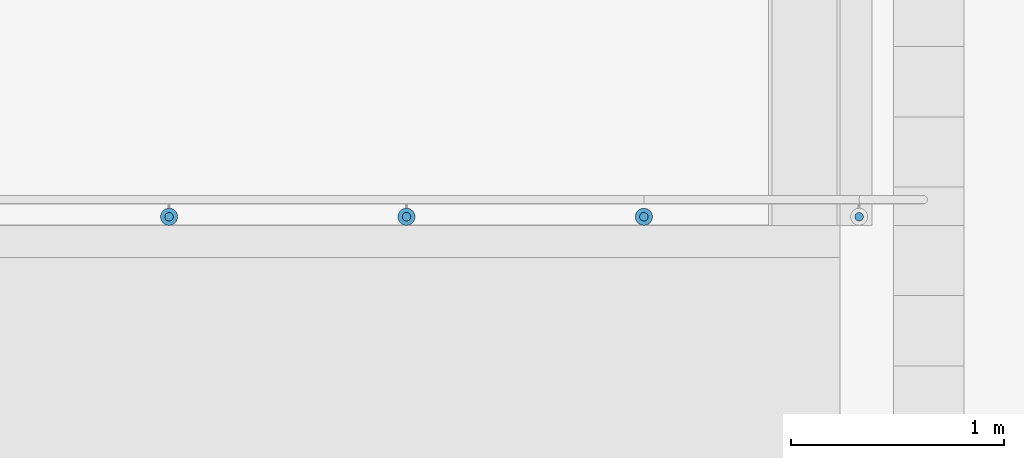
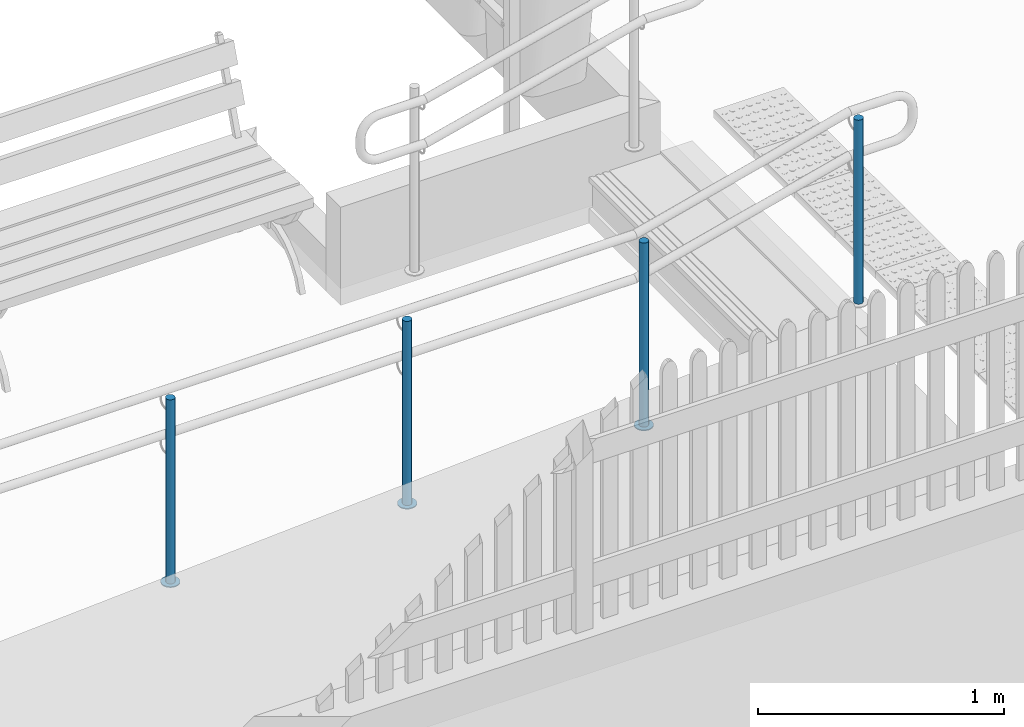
# One storey, part 89 of 237: 7 building element parts, 1 element without a shape of its own.
"""IFC2X3 building model written with IfcOpenShell, lengths in millimetres."""

import ifcopenshell
import ifcopenshell.guid

model = None  # the IFC model being written
_history = None  # IfcOwnerHistory: only IFC2X3 demands one
_inside = {}  # id of a spatial element -> (the spatial element, [elements in it])
_under = {}  # id of a project, library or spatial element -> (it, [spatial elements below it])
_declared = {}  # id of a project -> (the project, [libraries it declares])
_typed = {}  # id of a type object -> (the type object, [elements of that type])
_made_of = {}  # id of a material, layer set ... -> (it, [elements and type objects made of it])


def new_model(schema):
    """Start an empty IFC model of exactly this schema.

    Asked for "IFC4X3", IfcOpenShell would pick the latest addendum, in which some entities
    have other attributes; the version numbers below select the first issue.
    IFC2X3 requires an IfcOwnerHistory on every rooted entity: one is made here for all.
    """
    global model, _history
    if schema == "IFC4X3":
        model = ifcopenshell.file(schema_version=(4, 3, 0, 0))
    else:
        model = ifcopenshell.file(schema=schema)
    _inside.clear()
    _under.clear()
    _declared.clear()
    _typed.clear()
    _made_of.clear()
    _history = None
    if model.schema == "IFC2X3":
        org = make("IfcOrganization", Name="unknown")
        user = make(
            "IfcPersonAndOrganization",
            ThePerson=make("IfcPerson", FamilyName="unknown"),
            TheOrganization=org,
        )
        app = make(
            "IfcApplication",
            ApplicationDeveloper=org,
            Version="unknown",
            ApplicationFullName="unknown",
            ApplicationIdentifier="unknown",
        )
        _history = make(
            "IfcOwnerHistory",
            OwningUser=user,
            OwningApplication=app,
            ChangeAction="ADDED",
            CreationDate=0,
        )
    return model


def make(cls, **values):
    """One entity of the class cls with the attributes given. An attribute that is None is left unset."""
    return model.create_entity(
        cls, **{name: value for name, value in values.items() if value is not None}
    )


def entity(cls, *values):
    """Any entity or typed value of the class cls, its attributes in the order of the schema. None: left unset."""
    e = model.create_entity(cls)
    for i, value in enumerate(values):
        if value is not None:
            e[i] = value
    return e


def rooted(cls, **values):
    """An entity with a GlobalId (a new one), such as an element, a storey or a relation."""
    return make(cls, GlobalId=ifcopenshell.guid.new(), OwnerHistory=_history, **values)


def si_unit(unit_type, name, prefix=None):
    """IfcSIUnit, for example si_unit("LENGTHUNIT", "METRE", prefix="MILLI")."""
    return make("IfcSIUnit", UnitType=unit_type, Prefix=prefix, Name=name)


def converted_unit(unit_type, name, factor, base, dimensions=None, offset=None):
    """IfcConversionBasedUnit, such as the inch: factor (a typed value) times the base unit."""
    return make(
        "IfcConversionBasedUnit"
        if offset is None
        else "IfcConversionBasedUnitWithOffset",
        ConversionOffset=offset,
        Dimensions=None
        if dimensions is None
        else entity("IfcDimensionalExponents", *dimensions),
        UnitType=unit_type,
        Name=name,
        ConversionFactor=make(
            "IfcMeasureWithUnit", ValueComponent=factor, UnitComponent=base
        ),
    )


def derived_unit(unit_type, elements):
    """IfcDerivedUnit: a product of units, each with its exponent."""
    return make(
        "IfcDerivedUnit",
        Elements=[
            make("IfcDerivedUnitElement", Unit=unit, Exponent=power)
            for unit, power in elements
        ],
        UnitType=unit_type,
    )


def money_unit(currency):
    """IfcMonetaryUnit."""
    return make("IfcMonetaryUnit", Currency=currency)


def assignment(units):
    """IfcUnitAssignment: the units of a project."""
    return None if units is None else make("IfcUnitAssignment", Units=units)


def point(xyz):
    """IfcCartesianPoint."""
    return None if xyz is None else make("IfcCartesianPoint", Coordinates=xyz)


def direction(xyz):
    """IfcDirection."""
    return None if xyz is None else make("IfcDirection", DirectionRatios=xyz)


def frame(location, z_axis=None, x_axis=None):
    """IfcAxis2Placement3D, a coordinate frame: its origin and axes. An axis left out is left unset."""
    return make(
        "IfcAxis2Placement3D",
        Location=point(location),
        Axis=direction(z_axis),
        RefDirection=direction(x_axis),
    )


def origin_with_axes():
    """The frame at (0, 0, 0) with the z axis (0, 0, 1) and the x axis (1, 0, 0) written out."""
    return frame((0.0, 0.0, 0.0), z_axis=(0.0, 0.0, 1.0), x_axis=(1.0, 0.0, 0.0))


def place(relative_to, where):
    """IfcLocalPlacement: puts the frame where relative to a parent placement (None: the world)."""
    return make(
        "IfcLocalPlacement", PlacementRelTo=relative_to, RelativePlacement=where
    )


def context(
    kind, dimensions, precision=None, world=None, true_north=None, identifier=None
):
    """IfcGeometricRepresentationContext, for example the 3D "Model" context."""
    return make(
        "IfcGeometricRepresentationContext",
        ContextIdentifier=identifier,
        ContextType=kind,
        CoordinateSpaceDimension=dimensions,
        Precision=precision,
        WorldCoordinateSystem=world,
        TrueNorth=true_north,
    )


def subcontext(parent, identifier, kind, view, scale=None):
    """IfcGeometricRepresentationSubContext, for example "Body" below "Model"."""
    return make(
        "IfcGeometricRepresentationSubContext",
        ContextIdentifier=identifier,
        ContextType=kind,
        ParentContext=parent,
        TargetScale=scale,
        TargetView=view,
    )


def project(units=None, contexts=None):
    """IfcProject with its units and contexts."""
    return rooted(
        "IfcProject",
        Name="project",
        RepresentationContexts=contexts,
        UnitsInContext=assignment(units),
    )


def spatial(cls, under=None, at=None, **own):
    """A site, building, storey or space (cls), placed at a placement, below another one or the project."""
    s = rooted(cls, ObjectPlacement=at, **own)
    if under is not None:
        _under.setdefault(under.id(), (under, []))[1].append(s)
    return s


def faces_of(points, faces, orient=None, outer=None):
    """IfcFace entities. A face is a list of loops; a loop is a list of indices into points, from 0.

    orient and outer hold one flag for each loop. By default every Orientation is true, the
    first loop of a face is its IfcFaceOuterBound and the others are IfcFaceBound.
    """
    made = []
    for i, loops in enumerate(faces):
        bounds = []
        for j, loop in enumerate(loops):
            is_outer = j == 0 if outer is None else outer[i][j]
            bounds.append(
                make(
                    "IfcFaceOuterBound" if is_outer else "IfcFaceBound",
                    Bound=make("IfcPolyLoop", Polygon=[points[k] for k in loop]),
                    Orientation=True if orient is None else orient[i][j],
                )
            )
        made.append(make("IfcFace", Bounds=bounds))
    return made


def faceted_brep(points, faces, orient=None, outer=None, voids=None):
    """IfcFacetedBrep: a solid bounded by flat faces; with voids (closed shells), ...WithVoids."""
    shared = [point(p) for p in points]
    hull = make("IfcClosedShell", CfsFaces=faces_of(shared, faces, orient, outer))
    if voids is None:
        return make("IfcFacetedBrep", Outer=hull)
    return make(
        "IfcFacetedBrepWithVoids",
        Outer=hull,
        Voids=[
            make(cls, CfsFaces=faces_of(shared, fs, o, b)) for cls, fs, o, b in voids
        ],
    )


def shape(context_of_items, identifier, shape_type, items):
    """IfcShapeRepresentation: the items that make up one representation, for example the "Body"."""
    return make(
        "IfcShapeRepresentation",
        ContextOfItems=context_of_items,
        RepresentationIdentifier=identifier,
        RepresentationType=shape_type,
        Items=items,
    )


def material(Name=None, Category=None):
    """IfcMaterial."""
    return make("IfcMaterial", Name=Name, Category=Category)


def made_of(thing, what):
    """Note that an element or type object is made of a material, layer set ...; save() writes the relation."""
    if what is not None:
        _made_of.setdefault(what.id(), (what, []))[1].append(thing)
    return thing


def type_object(cls, material=None, **own):
    """A type object (cls), such as IfcWallType, which elements share."""
    return made_of(rooted(cls, **own), material)


def element(
    cls,
    number,
    at=None,
    inside=None,
    cuts=None,
    type_object=None,
    material=None,
    context=None,
    identifier="Body",
    shape_type=None,
    held_by="IfcProductDefinitionShape",
    body=None,
    shapes=None,
    **own,
):
    """One element of the class cls, such as IfcWall. Its Tag is "e" and its number.

    at: its placement. inside: the storey or other place that contains it. cuts: it is an
    opening in that element (IfcRelVoidsElement). A single representation is given by context,
    identifier, shape_type and body (its items); several are given by shapes. held_by: the class
    of the entity that holds the representations. save() writes the other relations.
    """
    e = rooted(cls, Tag="e%d" % number, ObjectPlacement=at, **own)
    if body is not None:
        shapes = [shape(context, identifier, shape_type, body)]
    if shapes is not None:
        e.Representation = make(held_by, Representations=shapes)
    if inside is not None:
        _inside.setdefault(inside.id(), (inside, []))[1].append(e)
    if cuts is not None:
        rooted(
            "IfcRelVoidsElement", RelatingBuildingElement=cuts, RelatedOpeningElement=e
        )
    if type_object is not None:
        _typed.setdefault(type_object.id(), (type_object, []))[1].append(e)
    return made_of(e, material)


def aggregate(whole, parts):
    """IfcRelAggregates: a whole, such as a stair, and the parts it consists of."""
    return rooted("IfcRelAggregates", RelatingObject=whole, RelatedObjects=parts)


def save(model, path):
    """Write the relations noted so far, then the file.

    IfcRelAggregates (storeys below a building ...), IfcRelContainedInSpatialStructure (elements
    in a storey), IfcRelDefinesByType, IfcRelAssociatesMaterial and IfcRelDeclares: one each for
    every whole, place, type object, material and project.
    """
    for whole, parts in _under.values():
        aggregate(whole, parts)
    for where, things in _inside.values():
        rooted(
            "IfcRelContainedInSpatialStructure",
            RelatedElements=things,
            RelatingStructure=where,
        )
    for kind, things in _typed.values():
        rooted("IfcRelDefinesByType", RelatedObjects=things, RelatingType=kind)
    for what, things in _made_of.values():
        rooted("IfcRelAssociatesMaterial", RelatedObjects=things, RelatingMaterial=what)
    for by, libraries in _declared.values():
        rooted("IfcRelDeclares", RelatingContext=by, RelatedDefinitions=libraries)
    model.write(path)


model = new_model("IFC2X3")

# Units and contexts
model_context = context("Model", 3, precision=0.01, world=origin_with_axes(), true_north=direction((0.0, 1.0)))
body_context = subcontext(model_context, "Body", "Model", "MODEL_VIEW")
ifc_project = project(units=[si_unit("LENGTHUNIT", "METRE", prefix="MILLI"), si_unit("AREAUNIT", "SQUARE_METRE"), si_unit("VOLUMEUNIT", "CUBIC_METRE"), converted_unit("PLANEANGLEUNIT", "DEGREE", entity("IfcPlaneAngleMeasure", 0.0174532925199), si_unit("PLANEANGLEUNIT", "RADIAN"), dimensions=[0, 0, 0, 0, 0, 0, 0]), money_unit("USD"), converted_unit("TIMEUNIT", "Year", entity("IfcTimeMeasure", 31556926.0), si_unit("TIMEUNIT", "SECOND"), dimensions=[0, 0, 1, 0, 0, 0, 0]), si_unit("MASSUNIT", "GRAM", prefix="KILO"), si_unit("THERMODYNAMICTEMPERATUREUNIT", "DEGREE_CELSIUS"), si_unit("LUMINOUSINTENSITYUNIT", "LUMEN"), si_unit("ENERGYUNIT", "JOULE", prefix="MEGA"), derived_unit("THERMALCONDUCTANCEUNIT", [(si_unit("POWERUNIT", "WATT"), 1), (si_unit("LENGTHUNIT", "METRE"), -1), (si_unit("THERMODYNAMICTEMPERATUREUNIT", "KELVIN"), -1)]), derived_unit("SPECIFICHEATCAPACITYUNIT", [(si_unit("ENERGYUNIT", "JOULE"), 1), (si_unit("MASSUNIT", "GRAM", prefix="KILO"), -1), (si_unit("THERMODYNAMICTEMPERATUREUNIT", "KELVIN"), -1)]), derived_unit("MASSDENSITYUNIT", [(si_unit("MASSUNIT", "GRAM", prefix="KILO"), 1), (si_unit("VOLUMEUNIT", "CUBIC_METRE"), -1)])], contexts=[model_context])

# Site, building, storey
site_placement = place(None, origin_with_axes())
site = spatial("IfcSite", under=ifc_project, at=site_placement, Name="Local", CompositionType="ELEMENT")
building_placement = place(site_placement, origin_with_axes())
building = spatial("IfcBuilding", under=site, at=building_placement, Name="Construção", CompositionType="ELEMENT")
storey_placement = place(building_placement, origin_with_axes())
storey = spatial("IfcBuildingStorey", under=building, at=storey_placement, Name="Pavimento Térreo", CompositionType="ELEMENT", Elevation=0.0)

# Railing, building element parts
railing_type = type_object("IfcRailingType", Name="Tipo de Guarda-Corpo", PredefinedType="NOTDEFINED")
railing_placement = place(storey_placement, frame((44000.0, 26000.0, -1614.15280207), z_axis=(0.0, 0.0, 1.0), x_axis=(1.0, 0.0, 0.0)))
railing = element("IfcRailing", 1, at=railing_placement, inside=storey, type_object=railing_type, Name="Guarda-Corpo - 001", PredefinedType="NOTDEFINED")
ifc_material_1 = material(Name="Aço - Inoxidável")
building_element_part_1_placement = place(railing_placement, origin_with_axes())
building_element_part_1 = element("IfcBuildingElementPart", 2, at=building_element_part_1_placement, material=ifc_material_1, Name="Aço - Inoxidável", context=body_context, shape_type="Brep", body=[
    faceted_brep([(4138.64157588, -823.624759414, 5.0), (4142.11453943, -823.928604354, 5.0), (4142.11453943, -823.928604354, 920.0), (4138.64157588, -823.624759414, 920.0), (4145.58750298, -823.624759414, 5.0), (4135.27413656, -822.722456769, 5.0), (4132.11453943, -821.249112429, 5.0), (4129.25878724, -819.249493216, 5.0), (4126.79365057, -816.784356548, 5.0), (4124.79403135, -813.928604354, 5.0), (4123.32068701, -810.76900722, 5.0), (4122.41838437, -807.401567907, 5.0), (4122.11453943, -803.928604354, 5.0), (4122.41838437, -800.4556408, 5.0), (4123.32068701, -797.088201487, 5.0), (4124.79403135, -793.928604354, 5.0), (4126.79365057, -791.07285216, 5.0), (4129.25878724, -788.607715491, 5.0), (4132.11453943, -786.608096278, 5.0), (4135.27413656, -785.134751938, 5.0), (4138.64157588, -784.232449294, 5.0), (4142.11453943, -783.928604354, 5.0), (4145.58750298, -784.232449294, 5.0), (4148.9549423, -785.134751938, 5.0), (4152.11453943, -786.608096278, 5.0), (4154.97029162, -788.607715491, 5.0), (4157.43542829, -791.07285216, 5.0), (4159.43504751, -793.928604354, 5.0), (4160.90839185, -797.088201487, 5.0), (4161.81069449, -800.4556408, 5.0), (4162.11453943, -803.928604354, 5.0), (4161.81069449, -807.401567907, 5.0), (4160.90839185, -810.76900722, 5.0), (4159.43504751, -813.928604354, 5.0), (4157.43542829, -816.784356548, 5.0), (4154.97029162, -819.249493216, 5.0), (4152.11453943, -821.249112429, 5.0), (4148.9549423, -822.722456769, 5.0), (4145.58750298, -823.624759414, 920.0), (4122.41838437, -800.4556408, 920.0), (4122.11453943, -803.928604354, 920.0), (4122.41838437, -807.401567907, 920.0), (4123.32068701, -810.76900722, 920.0), (4124.79403135, -813.928604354, 920.0), (4126.79365057, -816.784356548, 920.0), (4129.25878724, -819.249493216, 920.0), (4132.11453943, -821.249112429, 920.0), (4135.27413656, -822.722456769, 920.0), (4148.9549423, -822.722456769, 920.0), (4152.11453943, -821.249112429, 920.0), (4154.97029162, -819.249493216, 920.0), (4157.43542829, -816.784356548, 920.0), (4159.43504751, -813.928604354, 920.0), (4160.90839185, -810.76900722, 920.0), (4161.81069449, -807.401567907, 920.0), (4162.11453943, -803.928604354, 920.0), (4161.81069449, -800.4556408, 920.0), (4160.90839185, -797.088201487, 920.0), (4159.43504751, -793.928604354, 920.0), (4157.43542829, -791.07285216, 920.0), (4154.97029162, -788.607715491, 920.0), (4152.11453943, -786.608096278, 920.0), (4148.9549423, -785.134751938, 920.0), (4145.58750298, -784.232449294, 920.0), (4142.11453943, -783.928604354, 920.0), (4138.64157588, -784.232449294, 920.0), (4135.27413656, -785.134751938, 920.0), (4132.11453943, -786.608096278, 920.0), (4129.25878724, -788.607715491, 920.0), (4126.79365057, -791.07285216, 920.0), (4124.79403135, -793.928604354, 920.0), (4123.32068701, -797.088201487, 920.0)], [[[0, 1, 2, 3]], [[4, 1, 0, 5, 6, 7, 8, 9, 10, 11, 12, 13, 14, 15, 16, 17, 18, 19, 20, 21, 22, 23, 24, 25, 26, 27, 28, 29, 30, 31, 32, 33, 34, 35, 36, 37]], [[1, 4, 38, 2]], [[39, 40, 41, 42, 43, 44, 45, 46, 47, 3, 2, 38, 48, 49, 50, 51, 52, 53, 54, 55, 56, 57, 58, 59, 60, 61, 62, 63, 64, 65, 66, 67, 68, 69, 70, 71]], [[5, 0, 3, 47]], [[6, 5, 47, 46]], [[7, 6, 46, 45]], [[8, 7, 45, 44]], [[9, 8, 44, 43]], [[10, 9, 43, 42]], [[11, 10, 42, 41]], [[12, 11, 41, 40]], [[13, 12, 40, 39]], [[14, 13, 39, 71]], [[15, 14, 71, 70]], [[16, 15, 70, 69]], [[17, 16, 69, 68]], [[18, 17, 68, 67]], [[19, 18, 67, 66]], [[20, 19, 66, 65]], [[21, 20, 65, 64]], [[22, 21, 64, 63]], [[23, 22, 63, 62]], [[24, 23, 62, 61]], [[25, 24, 61, 60]], [[26, 25, 60, 59]], [[27, 26, 59, 58]], [[28, 27, 58, 57]], [[29, 28, 57, 56]], [[30, 29, 56, 55]], [[31, 30, 55, 54]], [[32, 31, 54, 53]], [[33, 32, 53, 52]], [[34, 33, 52, 51]], [[35, 34, 51, 50]], [[36, 35, 50, 49]], [[37, 36, 49, 48]], [[4, 37, 48, 38]]]),
])
ifc_material_2 = material(Name="Alumínio")
building_element_part_2_placement = place(railing_placement, origin_with_axes())
building_element_part_2 = element("IfcBuildingElementPart", 3, at=building_element_part_2_placement, material=ifc_material_2, Name="Alumínio", context=body_context, shape_type="Brep", body=[
    faceted_brep([(4182.11453943, -803.928604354, 0.0), (4181.50684955, -796.982677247, 0.0), (4181.50684955, -796.982677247, 5.0), (4182.11453943, -803.928604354, 5.0), (4181.50684955, -810.87453146, 0.0), (4179.70224426, -817.609410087, 0.0), (4176.75555558, -823.928604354, 0.0), (4172.75631715, -829.640108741, 0.0), (4167.82604382, -834.570382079, 0.0), (4162.11453943, -838.569620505, 0.0), (4155.79534516, -841.516309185, 0.0), (4149.06046654, -843.320914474, 0.0), (4142.11453943, -843.928604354, 0.0), (4135.16861232, -843.320914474, 0.0), (4128.4337337, -841.516309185, 0.0), (4122.11453943, -838.569620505, 0.0), (4116.40303504, -834.570382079, 0.0), (4111.47276171, -829.640108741, 0.0), (4107.47352328, -823.928604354, 0.0), (4104.5268346, -817.609410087, 0.0), (4102.72222931, -810.87453146, 0.0), (4102.11453943, -803.928604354, 0.0), (4102.72222931, -796.982677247, 0.0), (4104.5268346, -790.247798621, 0.0), (4107.47352328, -783.928604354, 0.0), (4111.47276171, -778.217099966, 0.0), (4116.40303504, -773.286826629, 0.0), (4122.11453943, -769.287588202, 0.0), (4128.4337337, -766.340899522, 0.0), (4135.16861232, -764.536294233, 0.0), (4142.11453943, -763.928604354, 0.0), (4149.06046654, -764.536294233, 0.0), (4155.79534516, -766.340899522, 0.0), (4162.11453943, -769.287588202, 0.0), (4167.82604382, -773.286826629, 0.0), (4172.75631715, -778.217099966, 0.0), (4176.75555558, -783.928604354, 0.0), (4179.70224426, -790.247798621, 0.0), (4179.70224426, -790.247798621, 5.0), (4176.75555558, -783.928604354, 5.0), (4172.75631715, -778.217099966, 5.0), (4167.82604382, -773.286826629, 5.0), (4162.11453943, -769.287588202, 5.0), (4155.79534516, -766.340899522, 5.0), (4149.06046654, -764.536294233, 5.0), (4142.11453943, -763.928604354, 5.0), (4135.16861232, -764.536294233, 5.0), (4128.4337337, -766.340899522, 5.0), (4122.11453943, -769.287588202, 5.0), (4116.40303504, -773.286826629, 5.0), (4111.47276171, -778.217099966, 5.0), (4107.47352328, -783.928604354, 5.0), (4104.5268346, -790.247798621, 5.0), (4102.72222931, -796.982677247, 5.0), (4102.11453943, -803.928604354, 5.0), (4102.72222931, -810.87453146, 5.0), (4104.5268346, -817.609410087, 5.0), (4107.47352328, -823.928604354, 5.0), (4111.47276171, -829.640108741, 5.0), (4116.40303504, -834.570382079, 5.0), (4122.11453943, -838.569620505, 5.0), (4128.4337337, -841.516309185, 5.0), (4135.16861232, -843.320914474, 5.0), (4142.11453943, -843.928604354, 5.0), (4149.06046654, -843.320914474, 5.0), (4155.79534516, -841.516309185, 5.0), (4162.11453943, -838.569620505, 5.0), (4167.82604382, -834.570382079, 5.0), (4172.75631715, -829.640108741, 5.0), (4176.75555558, -823.928604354, 5.0), (4179.70224426, -817.609410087, 5.0), (4181.50684955, -810.87453146, 5.0)], [[[0, 1, 2, 3]], [[0, 4, 5, 6, 7, 8, 9, 10, 11, 12, 13, 14, 15, 16, 17, 18, 19, 20, 21, 22, 23, 24, 25, 26, 27, 28, 29, 30, 31, 32, 33, 34, 35, 36, 37, 1]], [[1, 37, 38, 2]], [[3, 2, 38, 39, 40, 41, 42, 43, 44, 45, 46, 47, 48, 49, 50, 51, 52, 53, 54, 55, 56, 57, 58, 59, 60, 61, 62, 63, 64, 65, 66, 67, 68, 69, 70, 71]], [[4, 0, 3, 71]], [[5, 4, 71, 70]], [[6, 5, 70, 69]], [[7, 6, 69, 68]], [[8, 7, 68, 67]], [[9, 8, 67, 66]], [[10, 9, 66, 65]], [[11, 10, 65, 64]], [[12, 11, 64, 63]], [[13, 12, 63, 62]], [[14, 13, 62, 61]], [[15, 14, 61, 60]], [[16, 15, 60, 59]], [[17, 16, 59, 58]], [[18, 17, 58, 57]], [[19, 18, 57, 56]], [[20, 19, 56, 55]], [[21, 20, 55, 54]], [[22, 21, 54, 53]], [[23, 22, 53, 52]], [[24, 23, 52, 51]], [[25, 24, 51, 50]], [[26, 25, 50, 49]], [[27, 26, 49, 48]], [[28, 27, 48, 47]], [[29, 28, 47, 46]], [[30, 29, 46, 45]], [[31, 30, 45, 44]], [[32, 31, 44, 43]], [[33, 32, 43, 42]], [[34, 33, 42, 41]], [[35, 34, 41, 40]], [[36, 35, 40, 39]], [[37, 36, 39, 38]]]),
])
building_element_part_3_placement = place(railing_placement, origin_with_axes())
building_element_part_3 = element("IfcBuildingElementPart", 4, at=building_element_part_3_placement, material=ifc_material_1, Name="Aço - Inoxidável", context=body_context, shape_type="Brep", body=[
    faceted_brep([(5148.16223179, -823.412715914, 262.278068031), (5151.6352593, -823.715828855, 262.278068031), (5151.6352593, -823.715828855, 1177.27806803), (5148.16223179, -823.412715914, 1177.27806803), (5155.10815874, -823.411251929, 262.278068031), (5144.79460237, -822.511123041, 262.278068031), (5141.63469477, -821.038444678, 262.278068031), (5138.77852118, -819.039427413, 262.278068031), (5136.312865, -816.574810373, 262.278068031), (5134.31264392, -813.7194797, 262.278068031), (5132.83863367, -810.560193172, 262.278068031), (5131.9356213, -807.192944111, 262.278068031), (5131.63104437, -803.720044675, 262.278068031), (5131.93415731, -800.247017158, 262.278068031), (5132.83575019, -796.879387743, 262.278068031), (5134.30842855, -793.719480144, 262.278068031), (5136.30744581, -790.863306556, 262.278068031), (5138.77206285, -788.397650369, 262.278068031), (5141.62739353, -786.397429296, 262.278068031), (5144.78668005, -784.923419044, 262.278068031), (5148.15392912, -784.020406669, 262.278068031), (5151.62682855, -783.715829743, 262.278068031), (5155.09985607, -784.018942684, 262.278068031), (5158.46748548, -784.920535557, 262.278068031), (5161.62739308, -786.39321392, 262.278068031), (5164.48356667, -788.392231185, 262.278068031), (5166.94922286, -790.856848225, 262.278068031), (5168.94944393, -793.712178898, 262.278068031), (5170.42345418, -796.871465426, 262.278068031), (5171.32646656, -800.238714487, 262.278068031), (5171.63104348, -803.711613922, 262.278068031), (5171.32793054, -807.18464144, 262.278068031), (5170.42633767, -810.552270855, 262.278068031), (5168.95365931, -813.712178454, 262.278068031), (5166.95464204, -816.568352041, 262.278068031), (5164.490025, -819.034008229, 262.278068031), (5161.63469433, -821.034229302, 262.278068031), (5158.4754078, -822.508239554, 262.278068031), (5155.10815874, -823.411251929, 1177.27806803), (5131.93415731, -800.247017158, 1177.27806803), (5131.63104437, -803.720044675, 1177.27806803), (5131.9356213, -807.192944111, 1177.27806803), (5132.83863367, -810.560193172, 1177.27806803), (5134.31264392, -813.7194797, 1177.27806803), (5136.312865, -816.574810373, 1177.27806803), (5138.77852118, -819.039427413, 1177.27806803), (5141.63469477, -821.038444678, 1177.27806803), (5144.79460237, -822.511123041, 1177.27806803), (5158.4754078, -822.508239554, 1177.27806803), (5161.63469433, -821.034229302, 1177.27806803), (5164.490025, -819.034008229, 1177.27806803), (5166.95464204, -816.568352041, 1177.27806803), (5168.95365931, -813.712178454, 1177.27806803), (5170.42633767, -810.552270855, 1177.27806803), (5171.32793054, -807.18464144, 1177.27806803), (5171.63104348, -803.711613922, 1177.27806803), (5171.32646656, -800.238714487, 1177.27806803), (5170.42345418, -796.871465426, 1177.27806803), (5168.94944393, -793.712178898, 1177.27806803), (5166.94922286, -790.856848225, 1177.27806803), (5164.48356667, -788.392231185, 1177.27806803), (5161.62739308, -786.39321392, 1177.27806803), (5158.46748548, -784.920535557, 1177.27806803), (5155.09985607, -784.018942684, 1177.27806803), (5151.62682855, -783.715829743, 1177.27806803), (5148.15392912, -784.020406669, 1177.27806803), (5144.78668005, -784.923419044, 1177.27806803), (5141.62739353, -786.397429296, 1177.27806803), (5138.77206285, -788.397650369, 1177.27806803), (5136.30744581, -790.863306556, 1177.27806803), (5134.30842855, -793.719480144, 1177.27806803), (5132.83575019, -796.879387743, 1177.27806803)], [[[0, 1, 2, 3]], [[4, 1, 0, 5, 6, 7, 8, 9, 10, 11, 12, 13, 14, 15, 16, 17, 18, 19, 20, 21, 22, 23, 24, 25, 26, 27, 28, 29, 30, 31, 32, 33, 34, 35, 36, 37]], [[1, 4, 38, 2]], [[39, 40, 41, 42, 43, 44, 45, 46, 47, 3, 2, 38, 48, 49, 50, 51, 52, 53, 54, 55, 56, 57, 58, 59, 60, 61, 62, 63, 64, 65, 66, 67, 68, 69, 70, 71]], [[5, 0, 3, 47]], [[6, 5, 47, 46]], [[7, 6, 46, 45]], [[8, 7, 45, 44]], [[9, 8, 44, 43]], [[10, 9, 43, 42]], [[11, 10, 42, 41]], [[12, 11, 41, 40]], [[13, 12, 40, 39]], [[14, 13, 39, 71]], [[15, 14, 71, 70]], [[16, 15, 70, 69]], [[17, 16, 69, 68]], [[18, 17, 68, 67]], [[19, 18, 67, 66]], [[20, 19, 66, 65]], [[21, 20, 65, 64]], [[22, 21, 64, 63]], [[23, 22, 63, 62]], [[24, 23, 62, 61]], [[25, 24, 61, 60]], [[26, 25, 60, 59]], [[27, 26, 59, 58]], [[28, 27, 58, 57]], [[29, 28, 57, 56]], [[30, 29, 56, 55]], [[31, 30, 55, 54]], [[32, 31, 54, 53]], [[33, 32, 53, 52]], [[34, 33, 52, 51]], [[35, 34, 51, 50]], [[36, 35, 50, 49]], [[37, 36, 49, 48]], [[4, 37, 48, 38]]]),
])
building_element_part_4_placement = place(railing_placement, origin_with_axes())
building_element_part_4 = element("IfcBuildingElementPart", 5, at=building_element_part_4_placement, material=ifc_material_1, Name="Aço - Inoxidável", context=body_context, shape_type="Brep", body=[
    faceted_brep([(1912.19601646, -823.62475897, 5.0), (1915.66898001, -823.92860391, 5.0), (1915.66898001, -823.92860391, 920.0), (1912.19601646, -823.62475897, 920.0), (1919.14194357, -823.62475897, 5.0), (1908.82857715, -822.722456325, 5.0), (1905.66898001, -821.249111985, 5.0), (1902.81322782, -819.249492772, 5.0), (1900.34809115, -816.784356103, 5.0), (1898.34847194, -813.92860391, 5.0), (1896.8751276, -810.769006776, 5.0), (1895.97282495, -807.401567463, 5.0), (1895.66898001, -803.92860391, 5.0), (1895.97282495, -800.455640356, 5.0), (1896.8751276, -797.088201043, 5.0), (1898.34847194, -793.92860391, 5.0), (1900.34809115, -791.072851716, 5.0), (1902.81322782, -788.607715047, 5.0), (1905.66898001, -786.608095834, 5.0), (1908.82857715, -785.134751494, 5.0), (1912.19601646, -784.232448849, 5.0), (1915.66898001, -783.92860391, 5.0), (1919.14194357, -784.232448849, 5.0), (1922.50938288, -785.134751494, 5.0), (1925.66898001, -786.608095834, 5.0), (1928.52473221, -788.607715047, 5.0), (1930.98986888, -791.072851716, 5.0), (1932.98948809, -793.92860391, 5.0), (1934.46283243, -797.088201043, 5.0), (1935.36513507, -800.455640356, 5.0), (1935.66898001, -803.92860391, 5.0), (1935.36513507, -807.401567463, 5.0), (1934.46283243, -810.769006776, 5.0), (1932.98948809, -813.92860391, 5.0), (1930.98986888, -816.784356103, 5.0), (1928.52473221, -819.249492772, 5.0), (1925.66898001, -821.249111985, 5.0), (1922.50938288, -822.722456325, 5.0), (1919.14194357, -823.62475897, 920.0), (1895.97282495, -800.455640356, 920.0), (1895.66898001, -803.92860391, 920.0), (1895.97282495, -807.401567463, 920.0), (1896.8751276, -810.769006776, 920.0), (1898.34847194, -813.92860391, 920.0), (1900.34809115, -816.784356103, 920.0), (1902.81322782, -819.249492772, 920.0), (1905.66898001, -821.249111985, 920.0), (1908.82857715, -822.722456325, 920.0), (1922.50938288, -822.722456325, 920.0), (1925.66898001, -821.249111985, 920.0), (1928.52473221, -819.249492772, 920.0), (1930.98986888, -816.784356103, 920.0), (1932.98948809, -813.92860391, 920.0), (1934.46283243, -810.769006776, 920.0), (1935.36513507, -807.401567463, 920.0), (1935.66898001, -803.92860391, 920.0), (1935.36513507, -800.455640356, 920.0), (1934.46283243, -797.088201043, 920.0), (1932.98948809, -793.92860391, 920.0), (1930.98986888, -791.072851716, 920.0), (1928.52473221, -788.607715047, 920.0), (1925.66898001, -786.608095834, 920.0), (1922.50938288, -785.134751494, 920.0), (1919.14194357, -784.232448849, 920.0), (1915.66898001, -783.92860391, 920.0), (1912.19601646, -784.232448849, 920.0), (1908.82857715, -785.134751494, 920.0), (1905.66898001, -786.608095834, 920.0), (1902.81322782, -788.607715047, 920.0), (1900.34809115, -791.072851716, 920.0), (1898.34847194, -793.92860391, 920.0), (1896.8751276, -797.088201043, 920.0)], [[[0, 1, 2, 3]], [[4, 1, 0, 5, 6, 7, 8, 9, 10, 11, 12, 13, 14, 15, 16, 17, 18, 19, 20, 21, 22, 23, 24, 25, 26, 27, 28, 29, 30, 31, 32, 33, 34, 35, 36, 37]], [[1, 4, 38, 2]], [[39, 40, 41, 42, 43, 44, 45, 46, 47, 3, 2, 38, 48, 49, 50, 51, 52, 53, 54, 55, 56, 57, 58, 59, 60, 61, 62, 63, 64, 65, 66, 67, 68, 69, 70, 71]], [[5, 0, 3, 47]], [[6, 5, 47, 46]], [[7, 6, 46, 45]], [[8, 7, 45, 44]], [[9, 8, 44, 43]], [[10, 9, 43, 42]], [[11, 10, 42, 41]], [[12, 11, 41, 40]], [[13, 12, 40, 39]], [[14, 13, 39, 71]], [[15, 14, 71, 70]], [[16, 15, 70, 69]], [[17, 16, 69, 68]], [[18, 17, 68, 67]], [[19, 18, 67, 66]], [[20, 19, 66, 65]], [[21, 20, 65, 64]], [[22, 21, 64, 63]], [[23, 22, 63, 62]], [[24, 23, 62, 61]], [[25, 24, 61, 60]], [[26, 25, 60, 59]], [[27, 26, 59, 58]], [[28, 27, 58, 57]], [[29, 28, 57, 56]], [[30, 29, 56, 55]], [[31, 30, 55, 54]], [[32, 31, 54, 53]], [[33, 32, 53, 52]], [[34, 33, 52, 51]], [[35, 34, 51, 50]], [[36, 35, 50, 49]], [[37, 36, 49, 48]], [[4, 37, 48, 38]]]),
])
building_element_part_5_placement = place(railing_placement, origin_with_axes())
building_element_part_5 = element("IfcBuildingElementPart", 6, at=building_element_part_5_placement, material=ifc_material_2, Name="Alumínio", context=body_context, shape_type="Brep", body=[
    faceted_brep([(1955.66898001, -803.92860391, 0.0), (1955.06129013, -796.982676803, 0.0), (1955.06129013, -796.982676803, 5.0), (1955.66898001, -803.92860391, 5.0), (1955.06129013, -810.874531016, 0.0), (1953.25668485, -817.609409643, 0.0), (1950.30999617, -823.92860391, 0.0), (1946.31075774, -829.640108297, 0.0), (1941.3804844, -834.570381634, 0.0), (1935.66898001, -838.569620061, 0.0), (1929.34978575, -841.516308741, 0.0), (1922.61490712, -843.32091403, 0.0), (1915.66898001, -843.92860391, 0.0), (1908.72305291, -843.32091403, 0.0), (1901.98817428, -841.516308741, 0.0), (1895.66898001, -838.569620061, 0.0), (1889.95747563, -834.570381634, 0.0), (1885.02720229, -829.640108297, 0.0), (1881.02796386, -823.92860391, 0.0), (1878.08127518, -817.609409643, 0.0), (1876.27666989, -810.874531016, 0.0), (1875.66898001, -803.92860391, 0.0), (1876.27666989, -796.982676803, 0.0), (1878.08127518, -790.247798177, 0.0), (1881.02796386, -783.92860391, 0.0), (1885.02720229, -778.217099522, 0.0), (1889.95747563, -773.286826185, 0.0), (1895.66898001, -769.287587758, 0.0), (1901.98817428, -766.340899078, 0.0), (1908.72305291, -764.536293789, 0.0), (1915.66898001, -763.92860391, 0.0), (1922.61490712, -764.536293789, 0.0), (1929.34978575, -766.340899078, 0.0), (1935.66898001, -769.287587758, 0.0), (1941.3804844, -773.286826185, 0.0), (1946.31075774, -778.217099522, 0.0), (1950.30999617, -783.92860391, 0.0), (1953.25668485, -790.247798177, 0.0), (1953.25668485, -790.247798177, 5.0), (1950.30999617, -783.92860391, 5.0), (1946.31075774, -778.217099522, 5.0), (1941.3804844, -773.286826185, 5.0), (1935.66898001, -769.287587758, 5.0), (1929.34978575, -766.340899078, 5.0), (1922.61490712, -764.536293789, 5.0), (1915.66898001, -763.92860391, 5.0), (1908.72305291, -764.536293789, 5.0), (1901.98817428, -766.340899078, 5.0), (1895.66898001, -769.287587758, 5.0), (1889.95747563, -773.286826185, 5.0), (1885.02720229, -778.217099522, 5.0), (1881.02796386, -783.92860391, 5.0), (1878.08127518, -790.247798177, 5.0), (1876.27666989, -796.982676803, 5.0), (1875.66898001, -803.92860391, 5.0), (1876.27666989, -810.874531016, 5.0), (1878.08127518, -817.609409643, 5.0), (1881.02796386, -823.92860391, 5.0), (1885.02720229, -829.640108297, 5.0), (1889.95747563, -834.570381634, 5.0), (1895.66898001, -838.569620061, 5.0), (1901.98817428, -841.516308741, 5.0), (1908.72305291, -843.32091403, 5.0), (1915.66898001, -843.92860391, 5.0), (1922.61490712, -843.32091403, 5.0), (1929.34978575, -841.516308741, 5.0), (1935.66898001, -838.569620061, 5.0), (1941.3804844, -834.570381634, 5.0), (1946.31075774, -829.640108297, 5.0), (1950.30999617, -823.92860391, 5.0), (1953.25668485, -817.609409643, 5.0), (1955.06129013, -810.874531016, 5.0)], [[[0, 1, 2, 3]], [[0, 4, 5, 6, 7, 8, 9, 10, 11, 12, 13, 14, 15, 16, 17, 18, 19, 20, 21, 22, 23, 24, 25, 26, 27, 28, 29, 30, 31, 32, 33, 34, 35, 36, 37, 1]], [[1, 37, 38, 2]], [[3, 2, 38, 39, 40, 41, 42, 43, 44, 45, 46, 47, 48, 49, 50, 51, 52, 53, 54, 55, 56, 57, 58, 59, 60, 61, 62, 63, 64, 65, 66, 67, 68, 69, 70, 71]], [[4, 0, 3, 71]], [[5, 4, 71, 70]], [[6, 5, 70, 69]], [[7, 6, 69, 68]], [[8, 7, 68, 67]], [[9, 8, 67, 66]], [[10, 9, 66, 65]], [[11, 10, 65, 64]], [[12, 11, 64, 63]], [[13, 12, 63, 62]], [[14, 13, 62, 61]], [[15, 14, 61, 60]], [[16, 15, 60, 59]], [[17, 16, 59, 58]], [[18, 17, 58, 57]], [[19, 18, 57, 56]], [[20, 19, 56, 55]], [[21, 20, 55, 54]], [[22, 21, 54, 53]], [[23, 22, 53, 52]], [[24, 23, 52, 51]], [[25, 24, 51, 50]], [[26, 25, 50, 49]], [[27, 26, 49, 48]], [[28, 27, 48, 47]], [[29, 28, 47, 46]], [[30, 29, 46, 45]], [[31, 30, 45, 44]], [[32, 31, 44, 43]], [[33, 32, 43, 42]], [[34, 33, 42, 41]], [[35, 34, 41, 40]], [[36, 35, 40, 39]], [[37, 36, 39, 38]]]),
])
building_element_part_6_placement = place(railing_placement, origin_with_axes())
building_element_part_6 = element("IfcBuildingElementPart", 7, at=building_element_part_6_placement, material=ifc_material_1, Name="Aço - Inoxidável", context=body_context, shape_type="Brep", body=[
    faceted_brep([(3025.42090386, -823.62475897, 5.0), (3028.89386741, -823.92860391, 5.0), (3028.89386741, -823.92860391, 920.0), (3025.42090386, -823.62475897, 920.0), (3032.36683096, -823.62475897, 5.0), (3022.05346454, -822.722456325, 5.0), (3018.89386741, -821.249111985, 5.0), (3016.03811522, -819.249492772, 5.0), (3013.57297855, -816.784356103, 5.0), (3011.57335933, -813.92860391, 5.0), (3010.10001499, -810.769006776, 5.0), (3009.19771235, -807.401567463, 5.0), (3008.89386741, -803.92860391, 5.0), (3009.19771235, -800.455640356, 5.0), (3010.10001499, -797.088201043, 5.0), (3011.57335933, -793.92860391, 5.0), (3013.57297855, -791.072851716, 5.0), (3016.03811522, -788.607715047, 5.0), (3018.89386741, -786.608095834, 5.0), (3022.05346454, -785.134751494, 5.0), (3025.42090386, -784.232448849, 5.0), (3028.89386741, -783.92860391, 5.0), (3032.36683096, -784.232448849, 5.0), (3035.73427028, -785.134751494, 5.0), (3038.89386741, -786.608095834, 5.0), (3041.7496196, -788.607715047, 5.0), (3044.21475627, -791.072851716, 5.0), (3046.21437549, -793.92860391, 5.0), (3047.68771983, -797.088201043, 5.0), (3048.59002247, -800.455640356, 5.0), (3048.89386741, -803.92860391, 5.0), (3048.59002247, -807.401567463, 5.0), (3047.68771983, -810.769006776, 5.0), (3046.21437549, -813.92860391, 5.0), (3044.21475627, -816.784356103, 5.0), (3041.7496196, -819.249492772, 5.0), (3038.89386741, -821.249111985, 5.0), (3035.73427028, -822.722456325, 5.0), (3032.36683096, -823.62475897, 920.0), (3009.19771235, -800.455640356, 920.0), (3008.89386741, -803.92860391, 920.0), (3009.19771235, -807.401567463, 920.0), (3010.10001499, -810.769006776, 920.0), (3011.57335933, -813.92860391, 920.0), (3013.57297855, -816.784356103, 920.0), (3016.03811522, -819.249492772, 920.0), (3018.89386741, -821.249111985, 920.0), (3022.05346454, -822.722456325, 920.0), (3035.73427028, -822.722456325, 920.0), (3038.89386741, -821.249111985, 920.0), (3041.7496196, -819.249492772, 920.0), (3044.21475627, -816.784356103, 920.0), (3046.21437549, -813.92860391, 920.0), (3047.68771983, -810.769006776, 920.0), (3048.59002247, -807.401567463, 920.0), (3048.89386741, -803.92860391, 920.0), (3048.59002247, -800.455640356, 920.0), (3047.68771983, -797.088201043, 920.0), (3046.21437549, -793.92860391, 920.0), (3044.21475627, -791.072851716, 920.0), (3041.7496196, -788.607715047, 920.0), (3038.89386741, -786.608095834, 920.0), (3035.73427028, -785.134751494, 920.0), (3032.36683096, -784.232448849, 920.0), (3028.89386741, -783.92860391, 920.0), (3025.42090386, -784.232448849, 920.0), (3022.05346454, -785.134751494, 920.0), (3018.89386741, -786.608095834, 920.0), (3016.03811522, -788.607715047, 920.0), (3013.57297855, -791.072851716, 920.0), (3011.57335933, -793.92860391, 920.0), (3010.10001499, -797.088201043, 920.0)], [[[0, 1, 2, 3]], [[4, 1, 0, 5, 6, 7, 8, 9, 10, 11, 12, 13, 14, 15, 16, 17, 18, 19, 20, 21, 22, 23, 24, 25, 26, 27, 28, 29, 30, 31, 32, 33, 34, 35, 36, 37]], [[1, 4, 38, 2]], [[39, 40, 41, 42, 43, 44, 45, 46, 47, 3, 2, 38, 48, 49, 50, 51, 52, 53, 54, 55, 56, 57, 58, 59, 60, 61, 62, 63, 64, 65, 66, 67, 68, 69, 70, 71]], [[5, 0, 3, 47]], [[6, 5, 47, 46]], [[7, 6, 46, 45]], [[8, 7, 45, 44]], [[9, 8, 44, 43]], [[10, 9, 43, 42]], [[11, 10, 42, 41]], [[12, 11, 41, 40]], [[13, 12, 40, 39]], [[14, 13, 39, 71]], [[15, 14, 71, 70]], [[16, 15, 70, 69]], [[17, 16, 69, 68]], [[18, 17, 68, 67]], [[19, 18, 67, 66]], [[20, 19, 66, 65]], [[21, 20, 65, 64]], [[22, 21, 64, 63]], [[23, 22, 63, 62]], [[24, 23, 62, 61]], [[25, 24, 61, 60]], [[26, 25, 60, 59]], [[27, 26, 59, 58]], [[28, 27, 58, 57]], [[29, 28, 57, 56]], [[30, 29, 56, 55]], [[31, 30, 55, 54]], [[32, 31, 54, 53]], [[33, 32, 53, 52]], [[34, 33, 52, 51]], [[35, 34, 51, 50]], [[36, 35, 50, 49]], [[37, 36, 49, 48]], [[4, 37, 48, 38]]]),
])
building_element_part_7_placement = place(railing_placement, origin_with_axes())
building_element_part_7 = element("IfcBuildingElementPart", 8, at=building_element_part_7_placement, material=ifc_material_2, Name="Alumínio", context=body_context, shape_type="Brep", body=[
    faceted_brep([(3068.89386741, -803.92860391, 0.0), (3068.28617753, -796.982676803, 0.0), (3068.28617753, -796.982676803, 5.0), (3068.89386741, -803.92860391, 5.0), (3068.28617753, -810.874531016, 0.0), (3066.48157224, -817.609409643, 0.0), (3063.53488356, -823.92860391, 0.0), (3059.53564514, -829.640108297, 0.0), (3054.6053718, -834.570381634, 0.0), (3048.89386741, -838.569620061, 0.0), (3042.57467314, -841.516308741, 0.0), (3035.83979452, -843.32091403, 0.0), (3028.89386741, -843.92860391, 0.0), (3021.9479403, -843.32091403, 0.0), (3015.21306168, -841.516308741, 0.0), (3008.89386741, -838.569620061, 0.0), (3003.18236302, -834.570381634, 0.0), (2998.25208969, -829.640108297, 0.0), (2994.25285126, -823.92860391, 0.0), (2991.30616258, -817.609409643, 0.0), (2989.50155729, -810.874531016, 0.0), (2988.89386741, -803.92860391, 0.0), (2989.50155729, -796.982676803, 0.0), (2991.30616258, -790.247798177, 0.0), (2994.25285126, -783.92860391, 0.0), (2998.25208969, -778.217099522, 0.0), (3003.18236302, -773.286826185, 0.0), (3008.89386741, -769.287587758, 0.0), (3015.21306168, -766.340899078, 0.0), (3021.9479403, -764.536293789, 0.0), (3028.89386741, -763.92860391, 0.0), (3035.83979452, -764.536293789, 0.0), (3042.57467314, -766.340899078, 0.0), (3048.89386741, -769.287587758, 0.0), (3054.6053718, -773.286826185, 0.0), (3059.53564514, -778.217099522, 0.0), (3063.53488356, -783.92860391, 0.0), (3066.48157224, -790.247798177, 0.0), (3066.48157224, -790.247798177, 5.0), (3063.53488356, -783.92860391, 5.0), (3059.53564514, -778.217099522, 5.0), (3054.6053718, -773.286826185, 5.0), (3048.89386741, -769.287587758, 5.0), (3042.57467314, -766.340899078, 5.0), (3035.83979452, -764.536293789, 5.0), (3028.89386741, -763.92860391, 5.0), (3021.9479403, -764.536293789, 5.0), (3015.21306168, -766.340899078, 5.0), (3008.89386741, -769.287587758, 5.0), (3003.18236302, -773.286826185, 5.0), (2998.25208969, -778.217099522, 5.0), (2994.25285126, -783.92860391, 5.0), (2991.30616258, -790.247798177, 5.0), (2989.50155729, -796.982676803, 5.0), (2988.89386741, -803.92860391, 5.0), (2989.50155729, -810.874531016, 5.0), (2991.30616258, -817.609409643, 5.0), (2994.25285126, -823.92860391, 5.0), (2998.25208969, -829.640108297, 5.0), (3003.18236302, -834.570381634, 5.0), (3008.89386741, -838.569620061, 5.0), (3015.21306168, -841.516308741, 5.0), (3021.9479403, -843.32091403, 5.0), (3028.89386741, -843.92860391, 5.0), (3035.83979452, -843.32091403, 5.0), (3042.57467314, -841.516308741, 5.0), (3048.89386741, -838.569620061, 5.0), (3054.6053718, -834.570381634, 5.0), (3059.53564514, -829.640108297, 5.0), (3063.53488356, -823.92860391, 5.0), (3066.48157224, -817.609409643, 5.0), (3068.28617753, -810.874531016, 5.0)], [[[0, 1, 2, 3]], [[0, 4, 5, 6, 7, 8, 9, 10, 11, 12, 13, 14, 15, 16, 17, 18, 19, 20, 21, 22, 23, 24, 25, 26, 27, 28, 29, 30, 31, 32, 33, 34, 35, 36, 37, 1]], [[1, 37, 38, 2]], [[3, 2, 38, 39, 40, 41, 42, 43, 44, 45, 46, 47, 48, 49, 50, 51, 52, 53, 54, 55, 56, 57, 58, 59, 60, 61, 62, 63, 64, 65, 66, 67, 68, 69, 70, 71]], [[4, 0, 3, 71]], [[5, 4, 71, 70]], [[6, 5, 70, 69]], [[7, 6, 69, 68]], [[8, 7, 68, 67]], [[9, 8, 67, 66]], [[10, 9, 66, 65]], [[11, 10, 65, 64]], [[12, 11, 64, 63]], [[13, 12, 63, 62]], [[14, 13, 62, 61]], [[15, 14, 61, 60]], [[16, 15, 60, 59]], [[17, 16, 59, 58]], [[18, 17, 58, 57]], [[19, 18, 57, 56]], [[20, 19, 56, 55]], [[21, 20, 55, 54]], [[22, 21, 54, 53]], [[23, 22, 53, 52]], [[24, 23, 52, 51]], [[25, 24, 51, 50]], [[26, 25, 50, 49]], [[27, 26, 49, 48]], [[28, 27, 48, 47]], [[29, 28, 47, 46]], [[30, 29, 46, 45]], [[31, 30, 45, 44]], [[32, 31, 44, 43]], [[33, 32, 43, 42]], [[34, 33, 42, 41]], [[35, 34, 41, 40]], [[36, 35, 40, 39]], [[37, 36, 39, 38]]]),
])
aggregate(railing, [building_element_part_1, building_element_part_2, building_element_part_3, building_element_part_4, building_element_part_5, building_element_part_6, building_element_part_7])

save(model, "model.ifc")
